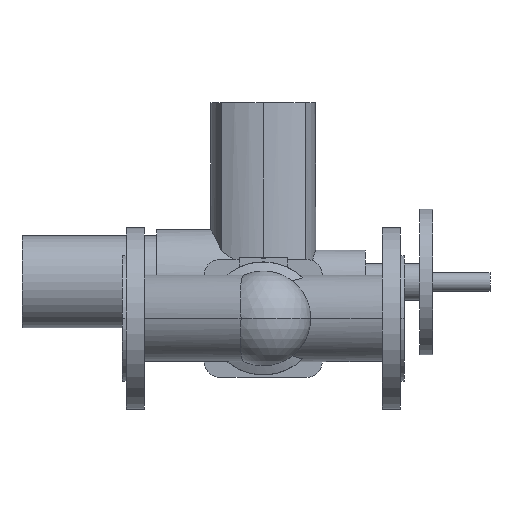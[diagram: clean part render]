
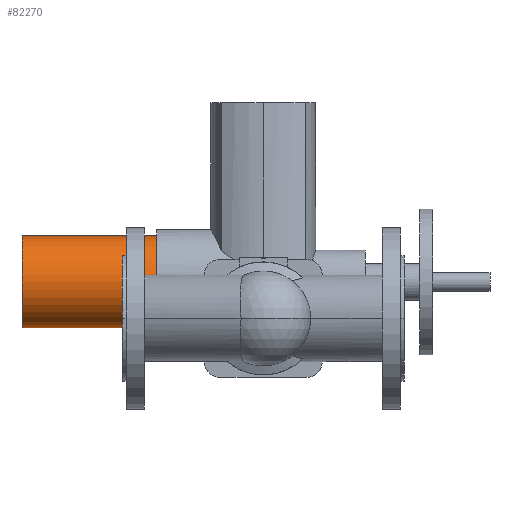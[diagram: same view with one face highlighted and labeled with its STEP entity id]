
A CAD part, front view. The second image highlights one B-rep face of the part: STEP entity #82270.
In plain terms, the highlighted cylindrical face has radius 50.5 mm (diameter 101 mm), a partial arc.
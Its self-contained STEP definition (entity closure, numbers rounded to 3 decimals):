
#66720=CARTESIAN_POINT('',(-36.,450.5,40.));
#66730=DIRECTION('',(1.,0.,0.));
#66740=DIRECTION('',(0.,0.,-1.));
#66750=AXIS2_PLACEMENT_3D('',#66720,#66730,#66740);
#66760=CYLINDRICAL_SURFACE('',#66750,50.5);
#66770=CARTESIAN_POINT('',(-36.,450.5,90.5));
#66780=DIRECTION('',(1.,0.,0.));
#66790=VECTOR('',#66780,1.);
#66800=LINE('',#66770,#66790);
#66810=CARTESIAN_POINT('',(-110.,450.5,90.5));
#66820=VERTEX_POINT('',#66810);
#66830=CARTESIAN_POINT('',(38.,450.5,90.5));
#66840=VERTEX_POINT('',#66830);
#66850=EDGE_CURVE('',#66820,#66840,#66800,.T.);
#66870=CARTESIAN_POINT('',(-110.,450.5,40.));
#66880=DIRECTION('',(-1.,0.,0.));
#66890=DIRECTION('',(0.,0.,-1.));
#66900=AXIS2_PLACEMENT_3D('',#66870,#66880,#66890);
#66910=CIRCLE('',#66900,50.5);
#66920=CARTESIAN_POINT('',(-110.,450.5,-10.5));
#66930=VERTEX_POINT('',#66920);
#66960=CARTESIAN_POINT('',(-36.,450.5,-10.5));
#66970=DIRECTION('',(1.,0.,0.));
#66980=VECTOR('',#66970,1.);
#66990=LINE('',#66960,#66980);
#67000=CARTESIAN_POINT('',(38.,450.5,-10.5));
#67010=VERTEX_POINT('',#67000);
#67020=EDGE_CURVE('',#66930,#67010,#66990,.T.);
#67040=CARTESIAN_POINT('',(38.,450.5,40.));
#67050=DIRECTION('',(-1.,0.,0.));
#67060=DIRECTION('',(0.,0.,-1.));
#67070=AXIS2_PLACEMENT_3D('',#67040,#67050,#67060);
#67080=CIRCLE('',#67070,50.5);
#70580=EDGE_CURVE('',#66930,#66820,#66910,.T.);
#80480=EDGE_CURVE('',#67010,#66840,#67080,.T.);
#82210=ORIENTED_EDGE('',*,*,#70580,.F.);
#82220=ORIENTED_EDGE('',*,*,#66850,.F.);
#82230=ORIENTED_EDGE('',*,*,#80480,.T.);
#82240=ORIENTED_EDGE('',*,*,#67020,.T.);
#82250=EDGE_LOOP('',(#82240,#82230,#82220,#82210));
#82260=FACE_OUTER_BOUND('',#82250,.T.);
#82270=ADVANCED_FACE('',(#82260),#66760,.T.);
